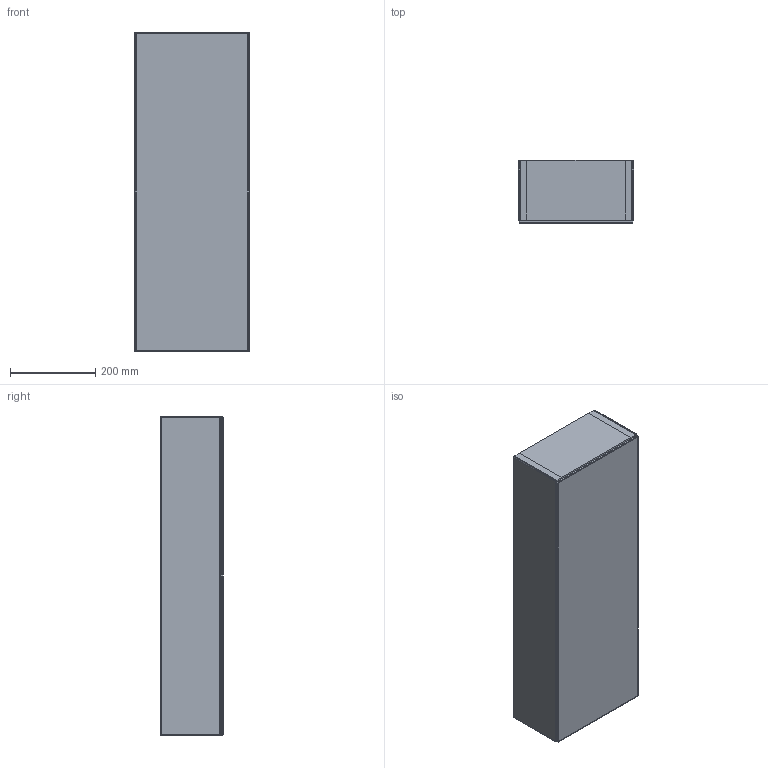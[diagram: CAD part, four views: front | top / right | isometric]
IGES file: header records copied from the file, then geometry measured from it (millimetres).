
Start section: Data from Parasolid IGES Translator 19.0.9, Copyright(c) 2006 Siemens PL M Software. All Rights Reserved.
Global section: file name: noorth-mirror-H 75 D 14,7 W 27_9050.igs; native system: By Siemens PLM Incorporated; preprocessor: XPlus GENERIC/IGES 19.0.9; author: Noname; organization: Noname; date: 20200519.094518; units: metre
Bounding box: 269.82 x 147 x 750 mm (x, y, z)
Volume: 7351987.7 mm3; surface area: 1942038 mm2
Topology: 11 solids, 11 shells, 170 faces, 324 edges, 176 vertices
Faces by surface type: plane 170
